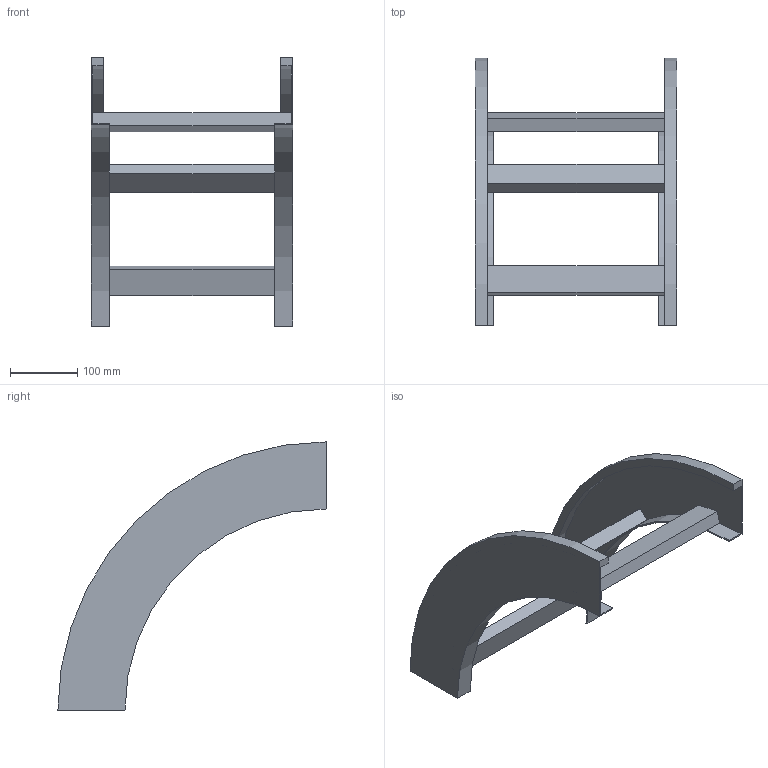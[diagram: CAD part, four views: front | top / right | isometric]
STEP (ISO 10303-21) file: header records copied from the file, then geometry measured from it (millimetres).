
FILE_DESCRIPTION (( 'STEP AP214' ), '1' );
FILE_NAME ('B2_33B3D300.step', '2025-02-21T15:02:24', ( '' ), ( '' ), 'SwSTEP 2.0', 'SolidWorks 2023', '' );
FILE_SCHEMA (( 'AUTOMOTIVE_DESIGN' ));
Length unit declared in the file: millimetre
Products named in the file (3): TRAVERSINO_300; B2_LONGH.DISCESA_90°_H100_R300; B2_33B3D300
Assembly tree (5 placements, depth 2):
  B2_33B3D300
    B2_LONGH.DISCESA_90°_H100_R300  x2
    TRAVERSINO_300  x3
Bounding box: 300 x 400 x 400 mm (x, y, z)
Volume: 1224127.7 mm3; surface area: 425275.9 mm2
Topology: 5 solids, 5 shells, 38 faces, 84 edges, 56 vertices
Faces by surface type: plane 30, cylinder 8
Entity records: 560 total; most frequent: DIRECTION 92, CARTESIAN_POINT 84, ORIENTED_EDGE 72, EDGE_CURVE 36, AXIS2_PLACEMENT_3D 32, LINE 28, VECTOR 28, VERTEX_POINT 24
